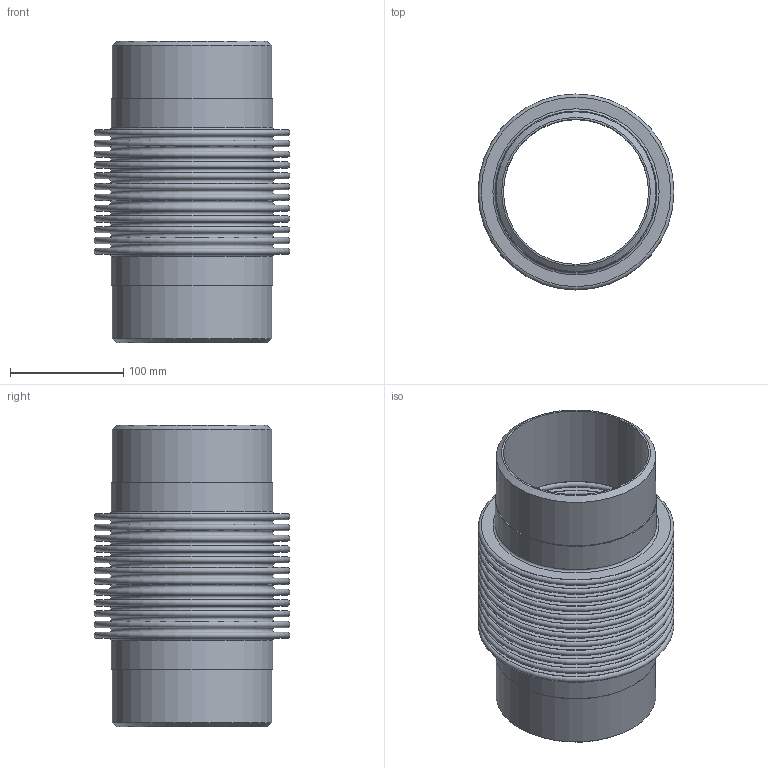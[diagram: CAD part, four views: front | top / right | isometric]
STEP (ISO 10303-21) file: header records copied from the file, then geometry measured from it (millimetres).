
FILE_DESCRIPTION(/* description */ ('EXPANSION JOINT,SINGLE, WELD ENDS,4 INCH NOMINAL'),/* implementation_level */ '2;1');
FILE_NAME(/* name */ 'ASSEMBLY US-5-12-150L.stp',/* time_stamp */ '2026-07-28T15:54:40-05:00',/* author */ ('jorgef'),/* organization */ (''),/* preprocessor_version */ 'ST-DEVELOPER v20.1',/* originating_system */ 'Autodesk Inventor 2026',/* authorisation */ '');
FILE_SCHEMA (('AUTOMOTIVE_DESIGN { 1 0 10303 214 3 1 1 }'));
Length unit declared in the file: inch
Products named in the file (3): ASSEMBLY  US-5-12-150L; STOCK BELLOW - US-5-12-150L; PIPE- US-5-12-150L
Assembly tree (3 placements, depth 2):
  ASSEMBLY  US-5-12-150L
    STOCK BELLOW - US-5-12-150L
    PIPE- US-5-12-150L  x2
Bounding box: 173.05 x 173.05 x 266.7 mm (x, y, z)
Volume: 592869.2 mm3; surface area: 607864.9 mm2
Topology: 5 solids, 5 shells, 118 faces, 180 edges, 121 vertices
Faces by surface type: plane 58, torus 50, cylinder 8, cone 2
Full cylindrical faces by diameter (mm): 128.194 x2, 141.3 x4, 142.824 x2
Entity records: 2769 total; most frequent: DIRECTION 573, CARTESIAN_POINT 405, ORIENTED_EDGE 342, AXIS2_PLACEMENT_3D 283, EDGE_CURVE 171, EDGE_LOOP 169, CIRCLE 164, VERTEX_POINT 114
